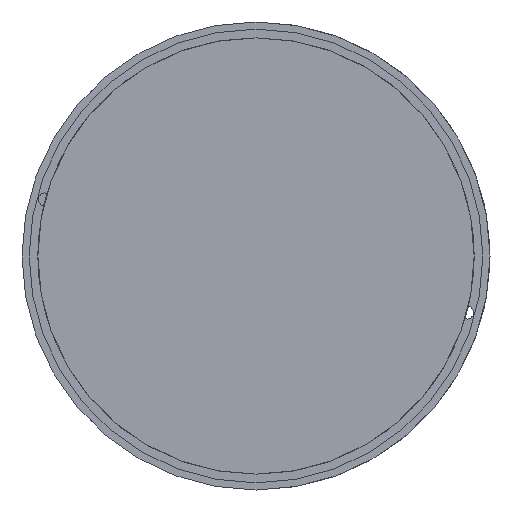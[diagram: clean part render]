
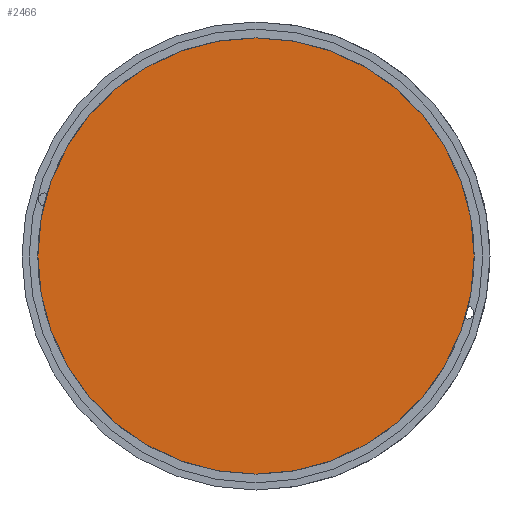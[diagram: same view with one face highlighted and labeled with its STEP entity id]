
A CAD part, front view. The second image highlights one B-rep face of the part: STEP entity #2466.
In plain terms, the highlighted planar face has unit normal (0, -1, 0).
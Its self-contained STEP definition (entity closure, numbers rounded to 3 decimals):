
#446 = PLANE ( 'NONE',  #1929 ) ;
#788 = VERTEX_POINT ( 'NONE', #6474 ) ;
#826 = CARTESIAN_POINT ( 'NONE',  ( 0., -0.3, 0. ) ) ;
#1718 = VERTEX_POINT ( 'NONE', #3402 ) ;
#1929 = AXIS2_PLACEMENT_3D ( 'NONE', #6253, #5753, #6413 ) ;
#2466 = ADVANCED_FACE ( 'NONE', ( #4479 ), #446, .T. ) ;
#2996 = CIRCLE ( 'NONE', #3997, 121.2 ) ;
#3402 = CARTESIAN_POINT ( 'NONE',  ( 0., -0.3, 121.2 ) ) ;
#3430 = EDGE_CURVE ( 'NONE', #788, #1718, #3656, .T. ) ;
#3656 = CIRCLE ( 'NONE', #5148, 121.2 ) ;
#3922 = EDGE_LOOP ( 'NONE', ( #7109, #5227 ) ) ;
#3997 = AXIS2_PLACEMENT_3D ( 'NONE', #5756, #4022, #5084 ) ;
#4022 = DIRECTION ( 'NONE',  ( 0., -1., 0. ) ) ;
#4479 = FACE_OUTER_BOUND ( 'NONE', #3922, .T. ) ;
#5084 = DIRECTION ( 'NONE',  ( 0., 0., -1. ) ) ;
#5148 = AXIS2_PLACEMENT_3D ( 'NONE', #826, #7400, #6805 ) ;
#5227 = ORIENTED_EDGE ( 'NONE', *, *, #5838, .T. ) ;
#5753 = DIRECTION ( 'NONE',  ( 0., -1., 0. ) ) ;
#5756 = CARTESIAN_POINT ( 'NONE',  ( 0., -0.3, 0. ) ) ;
#5838 = EDGE_CURVE ( 'NONE', #1718, #788, #2996, .T. ) ;
#6253 = CARTESIAN_POINT ( 'NONE',  ( 0., -0.3, 0. ) ) ;
#6413 = DIRECTION ( 'NONE',  ( 0., 0., -1. ) ) ;
#6474 = CARTESIAN_POINT ( 'NONE',  ( 0., -0.3, -121.2 ) ) ;
#6805 = DIRECTION ( 'NONE',  ( 0., 0., -1. ) ) ;
#7109 = ORIENTED_EDGE ( 'NONE', *, *, #3430, .T. ) ;
#7400 = DIRECTION ( 'NONE',  ( 0., -1., 0. ) ) ;
